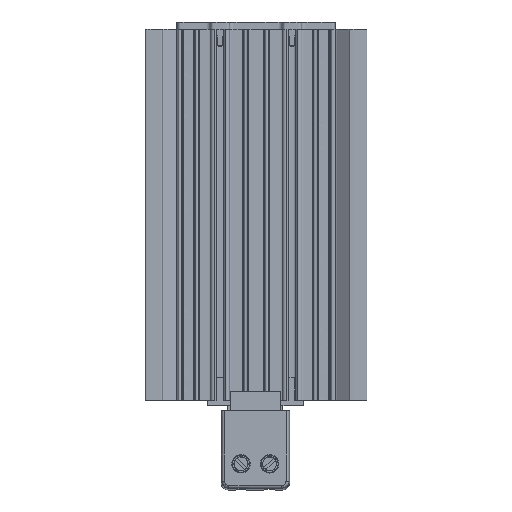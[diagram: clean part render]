
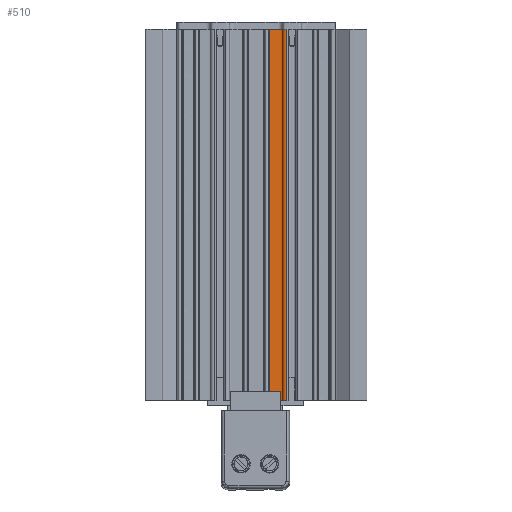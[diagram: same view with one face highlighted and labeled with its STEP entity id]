
A CAD part, front view. The second image highlights one B-rep face of the part: STEP entity #510.
In plain terms, the highlighted free-form (B-spline) face has degree [2, 1] with [17, 2] control points.
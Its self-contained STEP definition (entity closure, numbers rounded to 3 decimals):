
#510=ADVANCED_FACE('',(#1877),#23023,.T.);
#1877=FACE_OUTER_BOUND('',#3264,.T.);
#3264=EDGE_LOOP('',(#6065,#6066,#6067,#6068));
#6065=ORIENTED_EDGE('',*,*,#13281,.F.);
#6066=ORIENTED_EDGE('',*,*,#13627,.F.);
#6067=ORIENTED_EDGE('',*,*,#13628,.T.);
#6068=ORIENTED_EDGE('',*,*,#13629,.T.);
#13281=EDGE_CURVE('',#21185,#21184,#17094,.T.);
#13627=EDGE_CURVE('',#21487,#21185,#18661,.T.);
#13628=EDGE_CURVE('',#21487,#21488,#17396,.T.);
#13629=EDGE_CURVE('',#21488,#21184,#18662,.T.);
#17094=(
BOUNDED_CURVE()
B_SPLINE_CURVE(2,(#40200,#40201,#40202,#40203,#40204,#40205,#40206,#40207,
#40208,#40209,#40210,#40211,#40212,#40213,#40214,#40215,#40216),
 .UNSPECIFIED.,.F.,.F.)
B_SPLINE_CURVE_WITH_KNOTS((3,2,2,2,2,2,2,2,3),(79.73,80.23,
81.8,88.15,88.936,89.721,93.633,
95.182,96.459),.UNSPECIFIED.)
CURVE()
GEOMETRIC_REPRESENTATION_ITEM()
RATIONAL_B_SPLINE_CURVE((1.,1.,1.,0.707,1.,1.,1.,0.924,
1.,0.924,1.,1.,1.,0.715,1.,1.,1.))
REPRESENTATION_ITEM('')
);
#17396=(
BOUNDED_CURVE()
B_SPLINE_CURVE(2,(#41416,#41417,#41418,#41419,#41420,#41421,#41422,#41423,
#41424,#41425,#41426,#41427,#41428,#41429,#41430,#41431,#41432),
 .UNSPECIFIED.,.F.,.F.)
B_SPLINE_CURVE_WITH_KNOTS((3,2,2,2,2,2,2,2,3),(79.73,80.23,
81.8,88.15,88.936,89.721,93.633,
95.182,96.459),.UNSPECIFIED.)
CURVE()
GEOMETRIC_REPRESENTATION_ITEM()
RATIONAL_B_SPLINE_CURVE((1.,1.,1.,0.707,1.,1.,1.,0.924,
1.,0.924,1.,1.,1.,0.715,1.,1.,1.))
REPRESENTATION_ITEM('')
);
#18661=B_SPLINE_CURVE_WITH_KNOTS('',1,(#41414,#41415),.UNSPECIFIED.,.F.,
 .F.,(2,2),(-130.,0.),.UNSPECIFIED.);
#18662=B_SPLINE_CURVE_WITH_KNOTS('',1,(#41433,#41434),.UNSPECIFIED.,.F.,
 .F.,(2,2),(-130.,0.),.UNSPECIFIED.);
#21184=VERTEX_POINT('',#36189);
#21185=VERTEX_POINT('',#36190);
#21487=VERTEX_POINT('',#36492);
#21488=VERTEX_POINT('',#36493);
#23023=(
BOUNDED_SURFACE()
B_SPLINE_SURFACE(2,1,((#28404,#28405),(#28406,#28407),(#28408,#28409),(#28410,
#28411),(#28412,#28413),(#28414,#28415),(#28416,#28417),(#28418,#28419),
(#28420,#28421),(#28422,#28423),(#28424,#28425),(#28426,#28427),(#28428,
#28429),(#28430,#28431),(#28432,#28433),(#28434,#28435),(#28436,#28437)),
 .UNSPECIFIED.,.F.,.F.,.F.)
B_SPLINE_SURFACE_WITH_KNOTS((3,2,2,2,2,2,2,2,3),(2,2),(-96.459,
-95.182,-93.633,-89.721,-88.936,
-88.15,-81.8,-80.23,-79.73),
(0.,130.),.UNSPECIFIED.)
GEOMETRIC_REPRESENTATION_ITEM()
RATIONAL_B_SPLINE_SURFACE(((1.,1.),(1.,1.),(1.,1.),(0.715,0.715),
(1.,1.),(1.,1.),(1.,1.),(0.924,0.924),(1.,1.),(0.924,
0.924),(1.,1.),(1.,1.),(1.,1.),(0.707,0.707),
(1.,1.),(1.,1.),(1.,1.)))
REPRESENTATION_ITEM('')
SURFACE()
);
#28404=CARTESIAN_POINT('',(837.008,160.872,40.));
#28405=CARTESIAN_POINT('',(837.008,160.872,170.));
#28406=CARTESIAN_POINT('',(837.022,161.511,40.));
#28407=CARTESIAN_POINT('',(837.022,161.511,170.));
#28408=CARTESIAN_POINT('',(837.035,162.149,40.));
#28409=CARTESIAN_POINT('',(837.035,162.149,170.));
#28410=CARTESIAN_POINT('',(837.046,162.639,40.));
#28411=CARTESIAN_POINT('',(837.046,162.639,170.));
#28412=CARTESIAN_POINT('',(837.535,162.639,40.));
#28413=CARTESIAN_POINT('',(837.535,162.639,170.));
#28414=CARTESIAN_POINT('',(839.491,162.639,40.));
#28415=CARTESIAN_POINT('',(839.491,162.639,170.));
#28416=CARTESIAN_POINT('',(841.447,162.639,40.));
#28417=CARTESIAN_POINT('',(841.447,162.639,170.));
#28418=CARTESIAN_POINT('',(841.654,162.639,40.));
#28419=CARTESIAN_POINT('',(841.654,162.639,170.));
#28420=CARTESIAN_POINT('',(841.8,162.492,40.));
#28421=CARTESIAN_POINT('',(841.8,162.492,170.));
#28422=CARTESIAN_POINT('',(841.947,162.346,40.));
#28423=CARTESIAN_POINT('',(841.947,162.346,170.));
#28424=CARTESIAN_POINT('',(841.947,162.139,40.));
#28425=CARTESIAN_POINT('',(841.947,162.139,170.));
#28426=CARTESIAN_POINT('',(841.947,158.964,40.));
#28427=CARTESIAN_POINT('',(841.947,158.964,170.));
#28428=CARTESIAN_POINT('',(841.947,155.789,40.));
#28429=CARTESIAN_POINT('',(841.947,155.789,170.));
#28430=CARTESIAN_POINT('',(841.947,154.789,40.));
#28431=CARTESIAN_POINT('',(841.947,154.789,170.));
#28432=CARTESIAN_POINT('',(842.947,154.789,40.));
#28433=CARTESIAN_POINT('',(842.947,154.789,170.));
#28434=CARTESIAN_POINT('',(843.197,154.789,40.));
#28435=CARTESIAN_POINT('',(843.197,154.789,170.));
#28436=CARTESIAN_POINT('',(843.447,154.789,40.));
#28437=CARTESIAN_POINT('',(843.447,154.789,170.));
#36189=CARTESIAN_POINT('',(837.008,160.872,40.));
#36190=CARTESIAN_POINT('',(843.447,154.789,40.));
#36492=CARTESIAN_POINT('',(843.447,154.789,170.));
#36493=CARTESIAN_POINT('',(837.008,160.872,170.));
#40200=CARTESIAN_POINT('',(843.447,154.789,40.));
#40201=CARTESIAN_POINT('',(843.197,154.789,40.));
#40202=CARTESIAN_POINT('',(842.947,154.789,40.));
#40203=CARTESIAN_POINT('',(841.947,154.789,40.));
#40204=CARTESIAN_POINT('',(841.947,155.789,40.));
#40205=CARTESIAN_POINT('',(841.947,158.964,40.));
#40206=CARTESIAN_POINT('',(841.947,162.139,40.));
#40207=CARTESIAN_POINT('',(841.947,162.346,40.));
#40208=CARTESIAN_POINT('',(841.8,162.492,40.));
#40209=CARTESIAN_POINT('',(841.654,162.639,40.));
#40210=CARTESIAN_POINT('',(841.447,162.639,40.));
#40211=CARTESIAN_POINT('',(839.491,162.639,40.));
#40212=CARTESIAN_POINT('',(837.535,162.639,40.));
#40213=CARTESIAN_POINT('',(837.046,162.639,40.));
#40214=CARTESIAN_POINT('',(837.035,162.149,40.));
#40215=CARTESIAN_POINT('',(837.022,161.511,40.));
#40216=CARTESIAN_POINT('',(837.008,160.872,40.));
#41414=CARTESIAN_POINT('',(843.447,154.789,170.));
#41415=CARTESIAN_POINT('',(843.447,154.789,40.));
#41416=CARTESIAN_POINT('',(843.447,154.789,170.));
#41417=CARTESIAN_POINT('',(843.197,154.789,170.));
#41418=CARTESIAN_POINT('',(842.947,154.789,170.));
#41419=CARTESIAN_POINT('',(841.947,154.789,170.));
#41420=CARTESIAN_POINT('',(841.947,155.789,170.));
#41421=CARTESIAN_POINT('',(841.947,158.964,170.));
#41422=CARTESIAN_POINT('',(841.947,162.139,170.));
#41423=CARTESIAN_POINT('',(841.947,162.346,170.));
#41424=CARTESIAN_POINT('',(841.8,162.492,170.));
#41425=CARTESIAN_POINT('',(841.654,162.639,170.));
#41426=CARTESIAN_POINT('',(841.447,162.639,170.));
#41427=CARTESIAN_POINT('',(839.491,162.639,170.));
#41428=CARTESIAN_POINT('',(837.535,162.639,170.));
#41429=CARTESIAN_POINT('',(837.046,162.639,170.));
#41430=CARTESIAN_POINT('',(837.035,162.149,170.));
#41431=CARTESIAN_POINT('',(837.022,161.511,170.));
#41432=CARTESIAN_POINT('',(837.008,160.872,170.));
#41433=CARTESIAN_POINT('',(837.008,160.872,170.));
#41434=CARTESIAN_POINT('',(837.008,160.872,40.));
